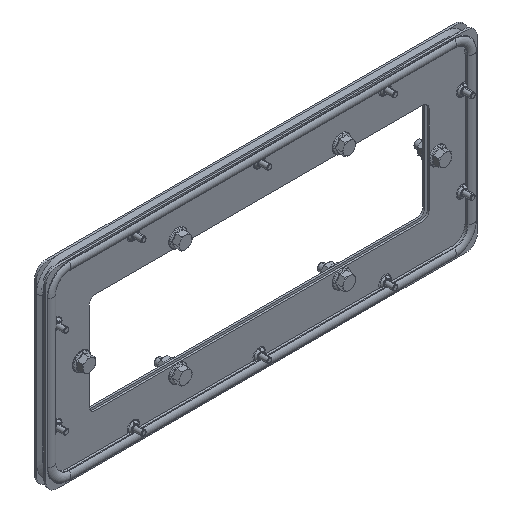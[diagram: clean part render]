
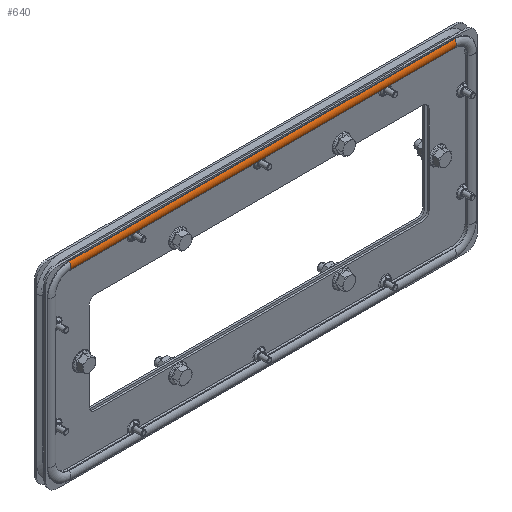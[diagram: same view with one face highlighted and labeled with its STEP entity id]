
A CAD part, isometric view. The second image highlights one B-rep face of the part: STEP entity #640.
In plain terms, the highlighted cylindrical face has radius 4.628 mm (diameter 9.256 mm), a partial arc.
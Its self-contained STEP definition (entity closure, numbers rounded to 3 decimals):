
#443 = DIRECTION ( 'NONE',  ( 0., 0., -1. ) ) ;
#459 = EDGE_CURVE ( 'NONE', #8142, #9564, #8245, .T. ) ;
#640 = ADVANCED_FACE ( 'NONE', ( #2943 ), #9111, .T. ) ;
#854 = DIRECTION ( 'NONE',  ( 1., 0., 0. ) ) ;
#946 = CARTESIAN_POINT ( 'NONE',  ( -3.363, 2.051, -153.15 ) ) ;
#1363 = LINE ( 'NONE', #3988, #9582 ) ;
#1386 = ORIENTED_EDGE ( 'NONE', *, *, #2325, .F. ) ;
#1585 = ORIENTED_EDGE ( 'NONE', *, *, #459, .T. ) ;
#2133 = CARTESIAN_POINT ( 'NONE',  ( 3.363, 2.051, -153.15 ) ) ;
#2210 = ORIENTED_EDGE ( 'NONE', *, *, #10575, .T. ) ;
#2325 = EDGE_CURVE ( 'NONE', #4821, #9564, #4733, .T. ) ;
#2537 = DIRECTION ( 'NONE',  ( 1., 0., 0. ) ) ;
#2655 = VERTEX_POINT ( 'NONE', #7149 ) ;
#2676 = CARTESIAN_POINT ( 'NONE',  ( 0., -1.128, 153.15 ) ) ;
#2703 = CARTESIAN_POINT ( 'NONE',  ( 0., -1.128, 153.15 ) ) ;
#2943 = FACE_OUTER_BOUND ( 'NONE', #6718, .T. ) ;
#3261 = AXIS2_PLACEMENT_3D ( 'NONE', #9040, #7195, #2537 ) ;
#3988 = CARTESIAN_POINT ( 'NONE',  ( 3.363, 2.051, 153.15 ) ) ;
#4733 = LINE ( 'NONE', #10111, #9949 ) ;
#4821 = VERTEX_POINT ( 'NONE', #5038 ) ;
#5038 = CARTESIAN_POINT ( 'NONE',  ( -3.363, 2.051, 153.15 ) ) ;
#5303 = DIRECTION ( 'NONE',  ( -1., 0., 0. ) ) ;
#5698 = DIRECTION ( 'NONE',  ( 0., 0., -1. ) ) ;
#5778 = DIRECTION ( 'NONE',  ( 0., 0., -1. ) ) ;
#6718 = EDGE_LOOP ( 'NONE', ( #2210, #1585, #1386, #8901 ) ) ;
#7149 = CARTESIAN_POINT ( 'NONE',  ( 3.363, 2.051, 153.15 ) ) ;
#7195 = DIRECTION ( 'NONE',  ( 0., 0., 1. ) ) ;
#8010 = DIRECTION ( 'NONE',  ( 0., 0., 1. ) ) ;
#8142 = VERTEX_POINT ( 'NONE', #2133 ) ;
#8245 = CIRCLE ( 'NONE', #3261, 4.628 ) ;
#8254 = AXIS2_PLACEMENT_3D ( 'NONE', #2676, #5698, #5303 ) ;
#8475 = EDGE_CURVE ( 'NONE', #2655, #4821, #9366, .T. ) ;
#8901 = ORIENTED_EDGE ( 'NONE', *, *, #8475, .F. ) ;
#9040 = CARTESIAN_POINT ( 'NONE',  ( 0., -1.128, -153.15 ) ) ;
#9111 = CYLINDRICAL_SURFACE ( 'NONE', #8254, 4.628 ) ;
#9366 = CIRCLE ( 'NONE', #10861, 4.628 ) ;
#9564 = VERTEX_POINT ( 'NONE', #946 ) ;
#9582 = VECTOR ( 'NONE', #443, 1000. ) ;
#9949 = VECTOR ( 'NONE', #5778, 1000. ) ;
#10111 = CARTESIAN_POINT ( 'NONE',  ( -3.363, 2.051, 153.15 ) ) ;
#10575 = EDGE_CURVE ( 'NONE', #2655, #8142, #1363, .T. ) ;
#10861 = AXIS2_PLACEMENT_3D ( 'NONE', #2703, #8010, #854 ) ;
